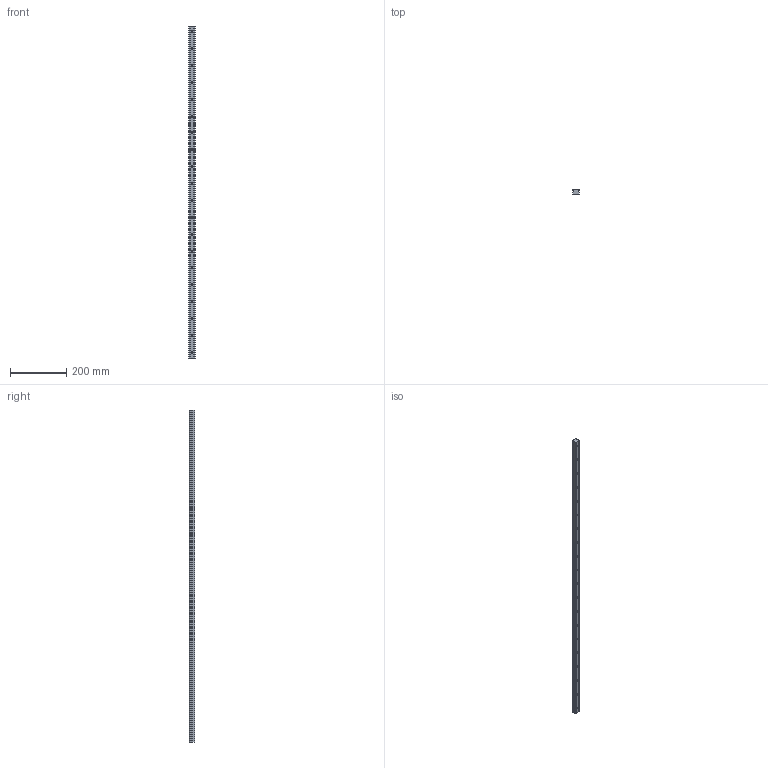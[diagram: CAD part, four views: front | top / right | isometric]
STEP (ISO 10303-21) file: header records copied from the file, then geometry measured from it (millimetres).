
FILE_DESCRIPTION (( 'STEP AP203' ), '1' );
FILE_NAME ('L1016.BL25-1180.step', '2019-06-12T12:06:55', ( '' ), ( '' ), 'SwSTEP 2.0', 'SolidWorks 2017', '' );
FILE_SCHEMA (( 'CONFIG_CONTROL_DESIGN' ));
Length unit declared in the file: millimetre
Products named in the file (1): L1016.BL25-1180
Bounding box: 23 x 19.2 x 1180 mm (x, y, z)
Volume: 434605.4 mm3; surface area: 112200.9 mm2
Topology: 1 solids, 1 shells, 126 faces, 312 edges, 208 vertices
Faces by surface type: cylinder 84, plane 42
Entity records: 3981 total; most frequent: DIRECTION 734, CARTESIAN_POINT 647, ORIENTED_EDGE 624, EDGE_CURVE 312, AXIS2_PLACEMENT_3D 295, VERTEX_POINT 208, EDGE_LOOP 186, CIRCLE 168
